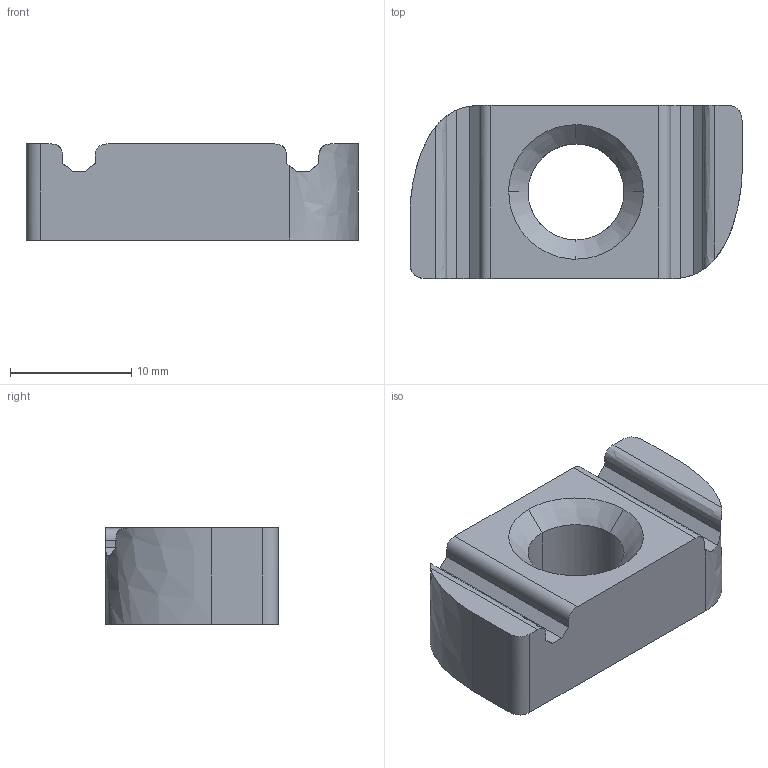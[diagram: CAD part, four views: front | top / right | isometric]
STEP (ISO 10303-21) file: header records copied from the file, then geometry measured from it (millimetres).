
FILE_DESCRIPTION(('TurboCAD Mac Pro'),'Build 980');
FILE_NAME('A3007.stp',' ',(''),(''),'ACIS Interop','IMSI','TurboCAD Mac Pro BY IMSI, INCORPORATED');
FILE_SCHEMA(('automotive_design'));
Length unit declared in the file: inch
Products named in the file (1): 1
Bounding box: 27.43 x 14.29 x 7.93 mm (x, y, z)
Volume: 2347.2 mm3; surface area: 1485.4 mm2
Topology: 1 solids, 1 shells, 34 faces, 92 edges, 60 vertices
Faces by surface type: plane 18, bspline 16
Entity records: 1828 total; most frequent: CARTESIAN_POINT 795, ORIENTED_EDGE 184, DIRECTION 92, EDGE_CURVE 92, VERTEX_POINT 60, LINE 54, VECTOR 54, B_SPLINE_CURVE_WITH_KNOTS 38
